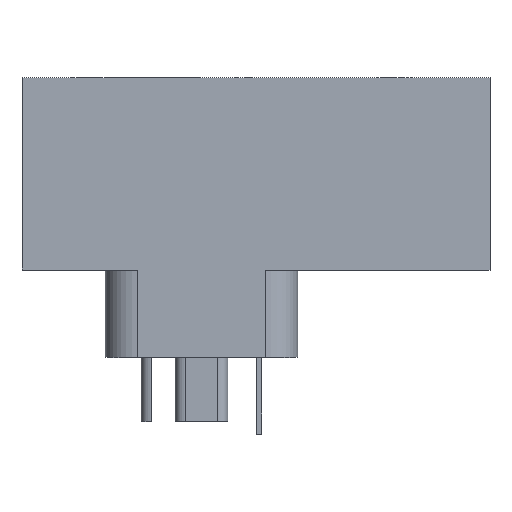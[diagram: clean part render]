
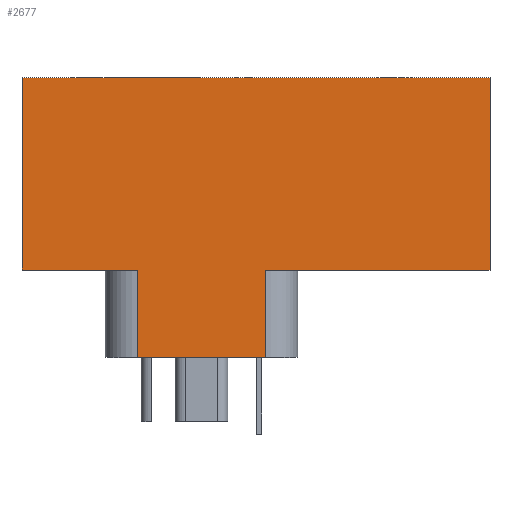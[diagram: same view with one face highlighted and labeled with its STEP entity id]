
A CAD part, top view. The second image highlights one B-rep face of the part: STEP entity #2677.
In plain terms, the highlighted planar face has unit normal (0, 0, 1).
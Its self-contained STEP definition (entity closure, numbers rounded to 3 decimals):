
#15=DIRECTION('',(0.,1.,0.));
#16=VECTOR('',#15,30.);
#17=CARTESIAN_POINT('',(0.,-15.,15.));
#18=LINE('',#17,#16);
#41=DIRECTION('',(1.,0.,0.));
#42=VECTOR('',#41,35.);
#43=CARTESIAN_POINT('',(38.,-15.,15.));
#44=LINE('',#43,#42);
#45=DIRECTION('',(0.,-1.,0.));
#46=VECTOR('',#45,13.6);
#47=CARTESIAN_POINT('',(38.,-15.,15.));
#48=LINE('',#47,#46);
#49=DIRECTION('',(1.,0.,0.));
#50=VECTOR('',#49,18.);
#51=CARTESIAN_POINT('',(0.,-15.,15.));
#52=LINE('',#51,#50);
#163=DIRECTION('',(1.,0.,0.));
#164=VECTOR('',#163,73.);
#165=CARTESIAN_POINT('',(0.,15.,15.));
#166=LINE('',#165,#164);
#239=DIRECTION('',(0.,-1.,0.));
#240=VECTOR('',#239,13.6);
#241=CARTESIAN_POINT('',(18.,-15.,15.));
#242=LINE('',#241,#240);
#248=DIRECTION('',(-1.,0.,0.));
#249=VECTOR('',#248,20.);
#250=CARTESIAN_POINT('',(38.,-28.6,15.));
#251=LINE('',#250,#249);
#1635=DIRECTION('',(0.,1.,0.));
#1636=VECTOR('',#1635,30.);
#1637=CARTESIAN_POINT('',(73.,-15.,15.));
#1638=LINE('',#1637,#1636);
#2033=CARTESIAN_POINT('',(0.,-15.,15.));
#2034=CARTESIAN_POINT('',(0.,15.,15.));
#2035=VERTEX_POINT('',#2033);
#2036=VERTEX_POINT('',#2034);
#2041=CARTESIAN_POINT('',(73.,-15.,15.));
#2042=CARTESIAN_POINT('',(73.,15.,15.));
#2043=VERTEX_POINT('',#2041);
#2044=VERTEX_POINT('',#2042);
#2165=CARTESIAN_POINT('',(18.,-28.6,15.));
#2167=VERTEX_POINT('',#2165);
#2179=CARTESIAN_POINT('',(38.,-28.6,15.));
#2180=VERTEX_POINT('',#2179);
#2181=CARTESIAN_POINT('',(18.,-15.,15.));
#2183=VERTEX_POINT('',#2181);
#2195=CARTESIAN_POINT('',(38.,-15.,15.));
#2196=VERTEX_POINT('',#2195);
#2655=CARTESIAN_POINT('',(0.,-15.,15.));
#2656=DIRECTION('',(0.,0.,1.));
#2657=DIRECTION('',(0.,1.,0.));
#2658=AXIS2_PLACEMENT_3D('',#2655,#2656,#2657);
#2659=PLANE('',#2658);
#2661=ORIENTED_EDGE('',*,*,#2660,.F.);
#2663=ORIENTED_EDGE('',*,*,#2662,.T.);
#2665=ORIENTED_EDGE('',*,*,#2664,.T.);
#2667=ORIENTED_EDGE('',*,*,#2666,.F.);
#2669=ORIENTED_EDGE('',*,*,#2668,.F.);
#2670=ORIENTED_EDGE('',*,*,#2638,.T.);
#2672=ORIENTED_EDGE('',*,*,#2671,.T.);
#2674=ORIENTED_EDGE('',*,*,#2673,.F.);
#2675=EDGE_LOOP('',(#2661,#2663,#2665,#2667,#2669,#2670,#2672,#2674));
#2676=FACE_OUTER_BOUND('',#2675,.F.);
#2638=EDGE_CURVE('',#2035,#2036,#18,.T.);
#2660=EDGE_CURVE('',#2196,#2043,#44,.T.);
#2662=EDGE_CURVE('',#2196,#2180,#48,.T.);
#2664=EDGE_CURVE('',#2180,#2167,#251,.T.);
#2666=EDGE_CURVE('',#2183,#2167,#242,.T.);
#2668=EDGE_CURVE('',#2035,#2183,#52,.T.);
#2671=EDGE_CURVE('',#2036,#2044,#166,.T.);
#2673=EDGE_CURVE('',#2043,#2044,#1638,.T.);
#2677=ADVANCED_FACE('',(#2676),#2659,.T.);
